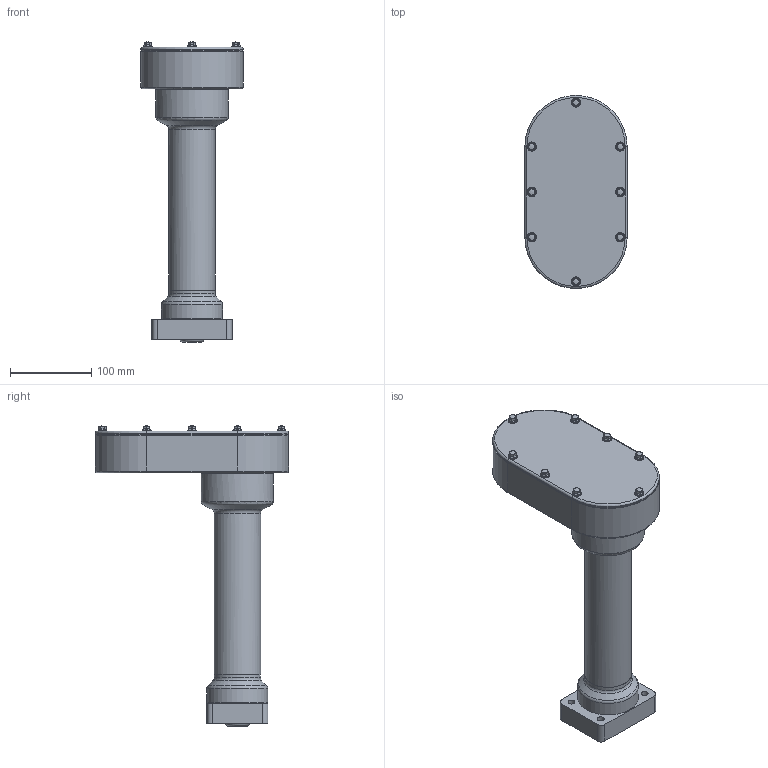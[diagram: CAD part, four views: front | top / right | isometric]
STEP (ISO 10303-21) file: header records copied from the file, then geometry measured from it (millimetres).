
FILE_DESCRIPTION (( 'STEP AP203' ), '1' );
FILE_NAME ('RSH22_BNM10_SM125.000_RS-475606-1.step', '2024-11-20T18:52:09', ( '' ), ( '' ), 'SwSTEP 2.0', 'SolidWorks 2024', '' );
FILE_SCHEMA (( 'CONFIG_CONTROL_DESIGN' ));
Length unit declared in the file: inch
Products named in the file (4): tempJoin0_21229020_RSH22_BNM10_SM125.000_RS-475606-1; RSH22_BNM10_SM125.000_RS-475606-1; Base_RSH22_BNM10_SM125.000_RS-475606-1; tempJoin0_21229007_RSH22_BNM10_SM125.000_RS-475606-1
Assembly tree (3 placements, depth 2):
  RSH22_BNM10_SM125.000_RS-475606-1
    tempJoin0_21229007_RSH22_BNM10_SM125.000_RS-475606-1
    tempJoin0_21229020_RSH22_BNM10_SM125.000_RS-475606-1
    Base_RSH22_BNM10_SM125.000_RS-475606-1
Bounding box: 125.73 x 237.19 x 368.76 mm (x, y, z)
Volume: 1577102.4 mm3; surface area: 377397.6 mm2
Topology: 3 solids, 47 shells, 2384 faces, 6052 edges, 3825 vertices
Faces by surface type: cylinder 922, plane 706, bspline 432, cone 161, torus 154, sphere 9
Full cylindrical faces by diameter (mm): 3.2 x2, 3.242 x14, 4.2 x17, 4.254 x9, 5 x26, 5.41 x8, 5.5 x8, 6.35 x4, 6.8 x4, 7.01 x9, 7.949 x9, 8 x13, 8.5 x12, 9 x1, 10 x8, 10.8 x1, 11 x8, 11.113 x2, 11.125 x1, 11.189 x1, 13 x4, 14 x4, 14.5 x4, 17.986 x1, 23.114 x1, 23.812 x1, 28 x1, 28.575 x2, 28.956 x1, 30.226 x2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
Entity records: 83659 total; most frequent: CARTESIAN_POINT 29595, DIRECTION 10993, ORIENTED_EDGE 10990, EDGE_CURVE 5495, AXIS2_PLACEMENT_3D 4442, VERTEX_POINT 3660, EDGE_LOOP 3021, FACE_OUTER_BOUND 2675
